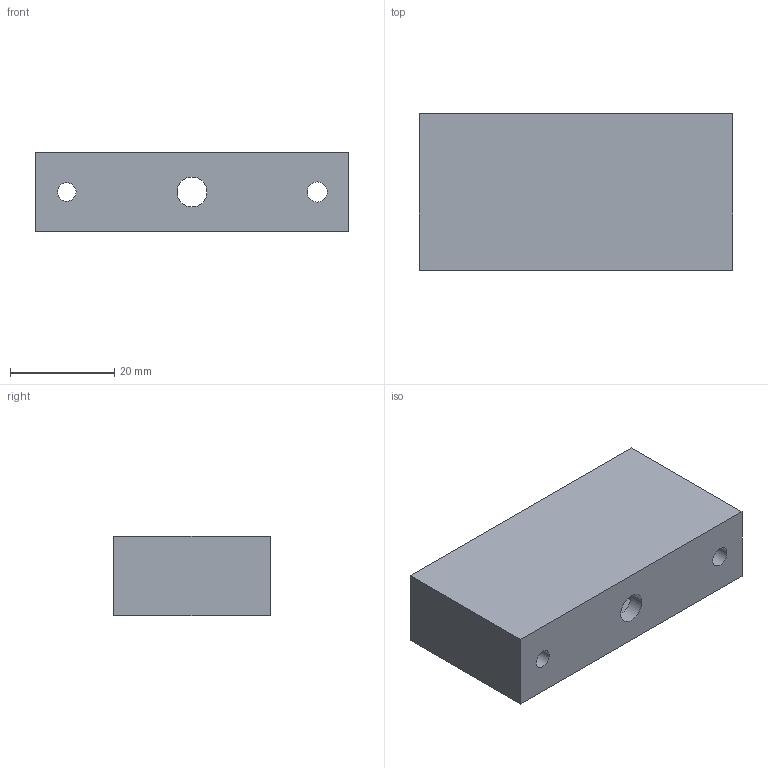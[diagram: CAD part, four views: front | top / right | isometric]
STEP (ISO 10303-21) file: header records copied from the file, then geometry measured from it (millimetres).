
FILE_DESCRIPTION(/* description */ ('STEP AP242 Edition 2','CAx-IF Rec.Pracs.---Representation and Presentation of Product Manufacturing Information (PMI)---4.0---2014-10-13','CAx-IF Rec.Pracs.---3D Tessellated Geometry---0.4---2014-09-14','2;1','CAx-IF Rec.Pracs.---User Defined Attributes---1.5---2016-08-15'),/* implementation_level */ '2;1');
FILE_NAME(/* name */ 'Assembly 1 - kart_v6',/* time_stamp */ '2026-02-04T12:55:11Z',/* author */ (''),/* organization */ (''),/* preprocessor_version */ 'ST-DEVELOPER v20',/* originating_system */ 'ONSHAPE BY PTC INC, 1.210',/* authorisation */ ' ');
FILE_SCHEMA (('AP242_MANAGED_MODEL_BASED_3D_ENGINEERING_MIM_LF { 1 0 10303 442 3 1 4 }'));
Length unit declared in the file: metre
Products named in the file (1): kart_v6
Bounding box: 60 x 30 x 15.16 mm (x, y, z)
Volume: 25585.6 mm3; surface area: 7691.5 mm2
Topology: 1 solids, 1 shells, 27 faces, 67 edges, 46 vertices
Faces by surface type: plane 22, cylinder 5
Full cylindrical faces by diameter (mm): 3.55 x1, 3.85 x1, 5.72 x3
Entity records: 776 total; most frequent: CARTESIAN_POINT 128, DIRECTION 124, ORIENTED_EDGE 116, EDGE_CURVE 58, LINE 48, VECTOR 48, VERTEX_POINT 42, EDGE_LOOP 42
